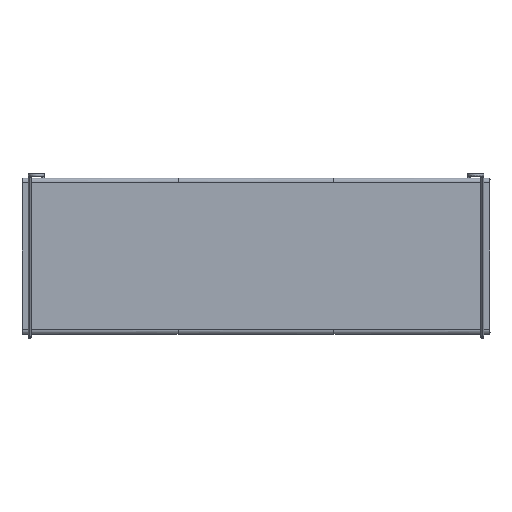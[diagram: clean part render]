
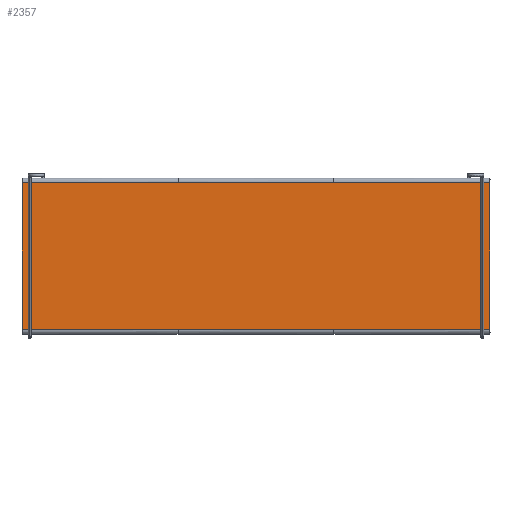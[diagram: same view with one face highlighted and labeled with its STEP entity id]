
A CAD part, top view. The second image highlights one B-rep face of the part: STEP entity #2357.
In plain terms, the highlighted planar face has unit normal (0, 0, 1).
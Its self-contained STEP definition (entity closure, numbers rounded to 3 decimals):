
#1472=B_SPLINE_CURVE_WITH_KNOTS('',1,(#46307,#46308),.UNSPECIFIED.,.F.,
 .F.,(2,2),(0.,188.),.UNSPECIFIED.);
#1473=B_SPLINE_CURVE_WITH_KNOTS('',1,(#46309,#46310),.UNSPECIFIED.,.F.,
 .F.,(2,2),(0.,600.),.UNSPECIFIED.);
#1474=B_SPLINE_CURVE_WITH_KNOTS('',1,(#46311,#46312),.UNSPECIFIED.,.F.,
 .F.,(2,2),(0.,188.),.UNSPECIFIED.);
#1475=B_SPLINE_CURVE_WITH_KNOTS('',1,(#46313,#46314),.UNSPECIFIED.,.F.,
 .F.,(2,2),(0.,600.),.UNSPECIFIED.);
#2357=ADVANCED_FACE('',(#3201),#14323,.T.);
#3201=FACE_OUTER_BOUND('',#4045,.T.);
#4045=EDGE_LOOP('',(#8615,#8616,#8617,#8618));
#8615=ORIENTED_EDGE('',*,*,#11281,.T.);
#8616=ORIENTED_EDGE('',*,*,#11282,.T.);
#8617=ORIENTED_EDGE('',*,*,#11283,.T.);
#8618=ORIENTED_EDGE('',*,*,#11284,.T.);
#11281=EDGE_CURVE('',#14209,#14210,#1472,.T.);
#11282=EDGE_CURVE('',#14210,#14211,#1473,.T.);
#11283=EDGE_CURVE('',#14211,#14212,#1474,.T.);
#11284=EDGE_CURVE('',#14212,#14209,#1475,.T.);
#14209=VERTEX_POINT('',#46299);
#14210=VERTEX_POINT('',#46300);
#14211=VERTEX_POINT('',#46301);
#14212=VERTEX_POINT('',#46302);
#14323=PLANE('',#15805);
#15805=AXIS2_PLACEMENT_3D('',#46293,#16386,$);
#16386=DIRECTION('',(0.,0.,1.));
#46293=CARTESIAN_POINT('',(-1024.105,-12.812,16.));
#46299=CARTESIAN_POINT('',(-364.093,6.,16.));
#46300=CARTESIAN_POINT('',(-364.093,194.,16.));
#46301=CARTESIAN_POINT('',(-964.093,194.,16.));
#46302=CARTESIAN_POINT('',(-964.093,6.,16.));
#46307=CARTESIAN_POINT('',(-364.093,6.,16.));
#46308=CARTESIAN_POINT('',(-364.093,194.,16.));
#46309=CARTESIAN_POINT('',(-364.093,194.,16.));
#46310=CARTESIAN_POINT('',(-964.093,194.,16.));
#46311=CARTESIAN_POINT('',(-964.093,194.,16.));
#46312=CARTESIAN_POINT('',(-964.093,6.,16.));
#46313=CARTESIAN_POINT('',(-964.093,6.,16.));
#46314=CARTESIAN_POINT('',(-364.093,6.,16.));
